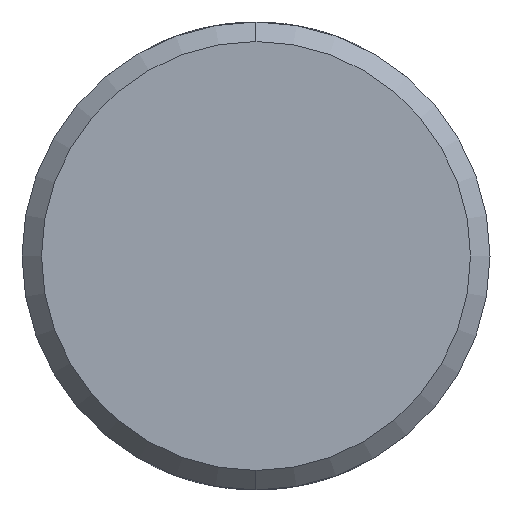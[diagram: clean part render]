
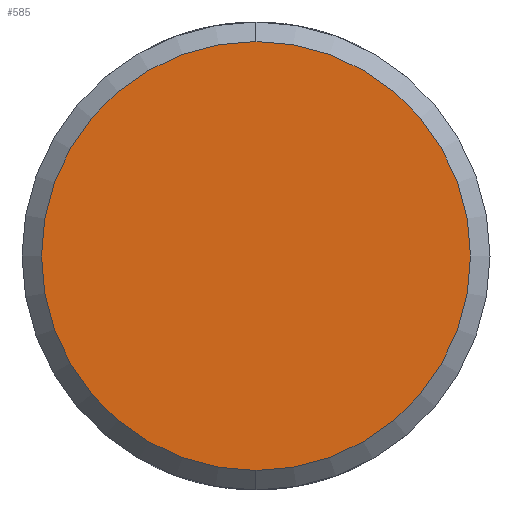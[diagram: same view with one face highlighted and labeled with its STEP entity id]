
A CAD part, left-side view. The second image highlights one B-rep face of the part: STEP entity #585.
In plain terms, the highlighted planar face has unit normal (-1, 0, 0).
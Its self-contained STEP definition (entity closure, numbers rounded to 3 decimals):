
#19 = DIRECTION ( 'NONE',  ( -1., 0., 0. ) ) ;
#52 = EDGE_LOOP ( 'NONE', ( #968, #483 ) ) ;
#101 = DIRECTION ( 'NONE',  ( 0., 0., -1. ) ) ;
#276 = DIRECTION ( 'NONE',  ( -1., 0., 0. ) ) ;
#285 = VERTEX_POINT ( 'NONE', #385 ) ;
#361 = CARTESIAN_POINT ( 'NONE',  ( -51., 0., 0. ) ) ;
#363 = DIRECTION ( 'NONE',  ( 1., 0., 0. ) ) ;
#385 = CARTESIAN_POINT ( 'NONE',  ( -51., 0., -5.5 ) ) ;
#432 = DIRECTION ( 'NONE',  ( 0., 0., -1. ) ) ;
#483 = ORIENTED_EDGE ( 'NONE', *, *, #827, .T. ) ;
#550 = AXIS2_PLACEMENT_3D ( 'NONE', #361, #276, #635 ) ;
#585 = ADVANCED_FACE ( 'NONE', ( #988 ), #894, .F. ) ;
#635 = DIRECTION ( 'NONE',  ( 0., 0., -1. ) ) ;
#658 = CARTESIAN_POINT ( 'NONE',  ( -51., 0., 0. ) ) ;
#679 = CARTESIAN_POINT ( 'NONE',  ( -51., 0., 5.5 ) ) ;
#716 = VERTEX_POINT ( 'NONE', #679 ) ;
#796 = CARTESIAN_POINT ( 'NONE',  ( -51., 0., 0. ) ) ;
#827 = EDGE_CURVE ( 'NONE', #716, #285, #946, .T. ) ;
#828 = CIRCLE ( 'NONE', #550, 5.5 ) ;
#860 = AXIS2_PLACEMENT_3D ( 'NONE', #796, #19, #101 ) ;
#891 = EDGE_CURVE ( 'NONE', #285, #716, #828, .T. ) ;
#894 = PLANE ( 'NONE',  #914 ) ;
#914 = AXIS2_PLACEMENT_3D ( 'NONE', #658, #363, #432 ) ;
#946 = CIRCLE ( 'NONE', #860, 5.5 ) ;
#968 = ORIENTED_EDGE ( 'NONE', *, *, #891, .T. ) ;
#988 = FACE_OUTER_BOUND ( 'NONE', #52, .T. ) ;
